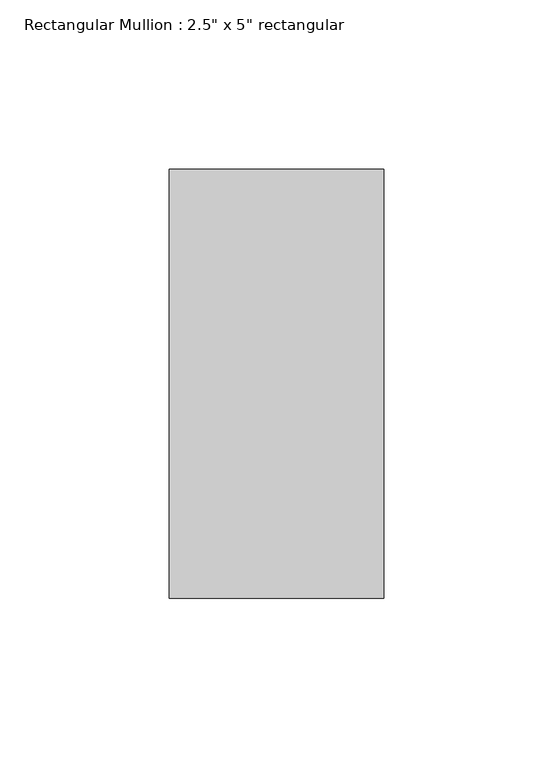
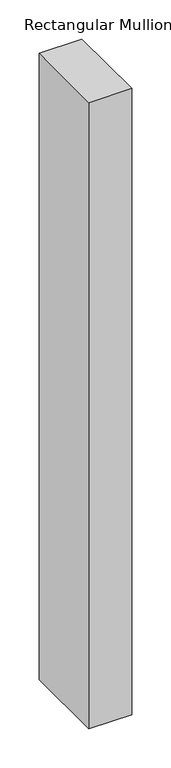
"""IFC4 building model written with IfcOpenShell, lengths in millimetres: member geometry."""

from ifc_helpers import new_model, si_unit, frame, origin, place, context, project, spatial, polyline, outline, extrude, source, transform, mapped, element, save


def member_07c0dd6a(model_context):
    return source(origin(), model_context, "Body", "SweptSolid", [
        extrude(outline(polyline([(31.75, 63.5), (31.75, -63.5), (-31.75, -63.5), (-31.75, 63.5), (31.75, 63.5)])), frame((0.0, 0.0, -979.4875), z_axis=(0.0, 0.0, 1.0), x_axis=(1.0, 0.0, 0.0)), (0.0, 0.0, 1.0), 979.4875),
    ])


if __name__ == "__main__":
    model = new_model("IFC4")
    model_context = context("Model", 3, world=origin())
    ifc_project = project(units=[si_unit("LENGTHUNIT", "METRE", prefix="MILLI")], contexts=[model_context])
    site = spatial("IfcSite", under=ifc_project)
    building = spatial("IfcBuilding", under=site)
    placement = place(None, origin())
    member_shape = member_07c0dd6a(model_context)
    element("IfcMember", 1, ObjectType="Rectangular Mullion : 2.5\" x 5\" rectangular", at=placement, inside=building, context=model_context, shape_type="MappedRepresentation", body=[
        mapped(member_shape, transform((0.0, 0.0, 0.0), x_axis=(1.0, 0.0, 0.0), y_axis=(0.0, 1.0, 0.0), z_axis=(0.0, 0.0, 1.0))),
    ])
    save(model, "model.ifc")
